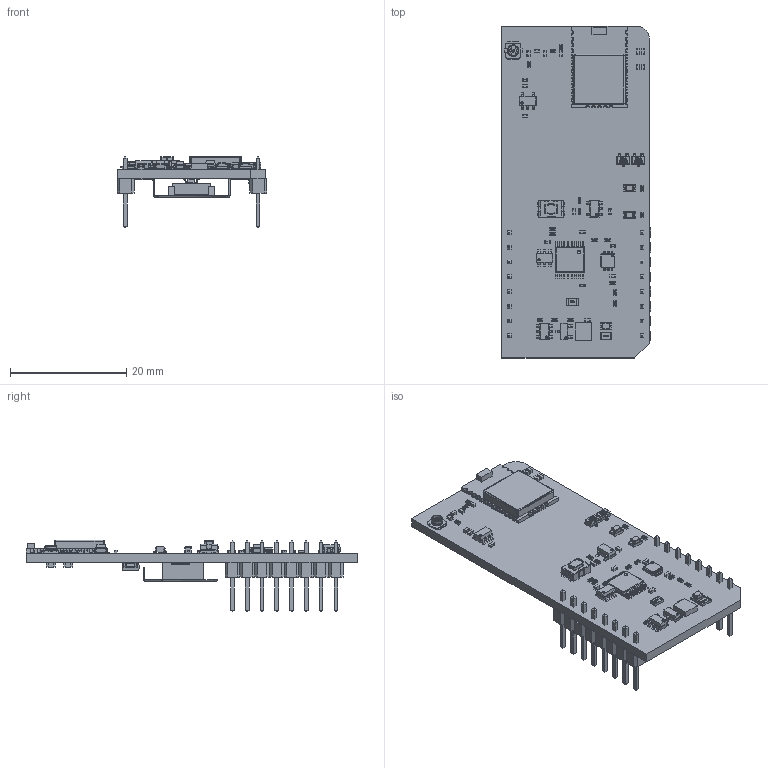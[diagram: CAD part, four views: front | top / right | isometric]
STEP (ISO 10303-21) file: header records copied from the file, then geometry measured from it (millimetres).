
FILE_DESCRIPTION(('Open CASCADE Model'),'2;1');
FILE_NAME('Open CASCADE Shape Model','2025-10-09T11:31:48',('Author'),( 'Open CASCADE'),'Open CASCADE STEP processor 6.8','Open CASCADE 6.8' ,'Unknown');
FILE_SCHEMA(('AUTOMOTIVE_DESIGN { 1 0 10303 214 1 1 1 1 }'));
Length unit declared in the file: millimetre
Products named in the file (94): PCB; Board; R5; User_Library-R_0402; T1; User_Library-Switch-CK-KMR2; User_Library-Switch-CK-KMR2_Button; User_Library-Switch-CK-KMR2_Boitier; User_Library-Switch-CK-KMR2_Tole; User_Library-Switch-CK-KMR2_Pads; R6; C21; User_Library-SMD_CAPACITOR0402; U8; User_Library-SOT23-6-2; U7; User_Library-SOT23-5-2; U2; R12; User_Library-R_0805; R10; D1; SOT23-3; C20; C19; U1; 917355816; Extruded; Q1; R4; C1; R2; LD1; led_0805_green; C15; C17; R18; R17; R16; Q3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
Assembly tree (136 placements, depth 7):
  PCB
    Board
    R5
      User_Library-R_0402
    T1
      User_Library-Switch-CK-KMR2
        User_Library-Switch-CK-KMR2_Button
        User_Library-Switch-CK-KMR2_Boitier
        User_Library-Switch-CK-KMR2_Tole
        User_Library-Switch-CK-KMR2_Pads
    R6
      User_Library-R_0402
    C21
      User_Library-SMD_CAPACITOR0402
    U8
      User_Library-SOT23-6-2
    U7
      User_Library-SOT23-5-2
    U2
      User_Library-SOT23-6-2
    R12
      User_Library-R_0805
    R10
      User_Library-R_0402
    D1
      SOT23-3
    C20
      User_Library-SMD_CAPACITOR0402
    C19
      User_Library-SMD_CAPACITOR0402
    U1
      917355816
        Extruded
    Q1
      SOT23-3
    R4
      User_Library-R_0402
    C1
      User_Library-SMD_CAPACITOR0402
    R2
      User_Library-R_0402
    LD1
      led_0805_green
    C15
      User_Library-SMD_CAPACITOR0402
    C17
      User_Library-SMD_CAPACITOR0402
    R18
      User_Library-R_0402
    R17
      User_Library-R_0402
    R16
      User_Library-R_0402
    Q3
      SOT323_(SC70-3)-1
        User_Library-SOT323_(SC70-3)-1_K_X_F6rper_1
        User_Library-SOT323_(SC70-3)-1_Beschriftung_1
        User_Library-SOT323_(SC70-3)-1_Pins_1  x3
    Q2
      SOT323_(SC70-3)-1
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Bounding box: 25.78 x 57.15 x 12.31 mm (x, y, z)
Volume: 3074.4 mm3; surface area: 6166.6 mm2
Topology: 170 solids, 171 shells, 6228 faces, 15647 edges, 9764 vertices
Faces by surface type: plane 3751, bspline 1272, cylinder 978, sphere 202, cone 18, torus 5, revolution 2
Entity records: 97607 total; most frequent: CARTESIAN_POINT 21917, ORIENTED_EDGE 13314, DIRECTION 11597, EDGE_CURVE 6678, LINE 4847, VECTOR 4847, VERTEX_POINT 4236, AXIS2_PLACEMENT_3D 3374
